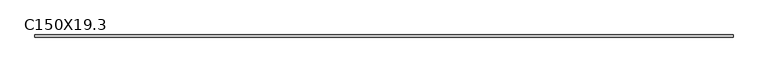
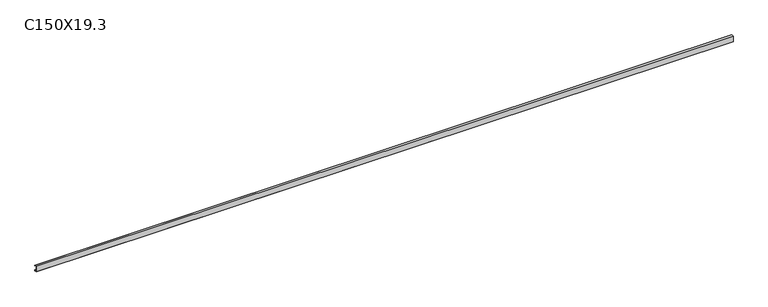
"""IFC4 building model written with IfcOpenShell, lengths in millimetres: beam geometry, EST-PER-C-HGalv : C150X19.3."""

from ifc_helpers import new_model, si_unit, frame, origin, place, context, project, spatial, polyline, outline, extrude, source, transform, mapped, element, save


def c150x19_3_7419d847(model_context):
    return source(origin(), model_context, "Body", "SweptSolid", [
        extrude(outline(polyline([(-13.1, 80.0), (46.9, 80.0), (46.9, 60.0), (44.9, 60.0), (44.9, 78.0), (-11.1, 78.0), (-11.1, -78.0), (44.9, -78.0), (44.9, -60.0), (46.9, -60.0), (46.9, -80.0), (-13.1, -80.0), (-13.1, 80.0)])), frame((-10215.0, 0.0, 0.0), z_axis=(1.0, 0.0, 0.0), x_axis=(0.0, 1.0, 0.0)), (0.0, 0.0, 1.0), 19537.0),
    ])


if __name__ == "__main__":
    model = new_model("IFC4")
    model_context = context("Model", 3, world=origin())
    ifc_project = project(units=[si_unit("LENGTHUNIT", "METRE", prefix="MILLI")], contexts=[model_context])
    site = spatial("IfcSite", under=ifc_project)
    building = spatial("IfcBuilding", under=site)
    placement = place(None, origin())
    c150x19_3_shape = c150x19_3_7419d847(model_context)
    element("IfcBeam", 1, ObjectType="EST-PER-C-HGalv : C150X19.3", at=placement, inside=building, context=model_context, shape_type="MappedRepresentation", body=[
        mapped(c150x19_3_shape, transform((0.0, 0.0, 0.0), x_axis=(1.0, 0.0, 0.0), y_axis=(0.0, 1.0, 0.0), z_axis=(0.0, 0.0, 1.0))),
    ])
    save(model, "model.ifc")
